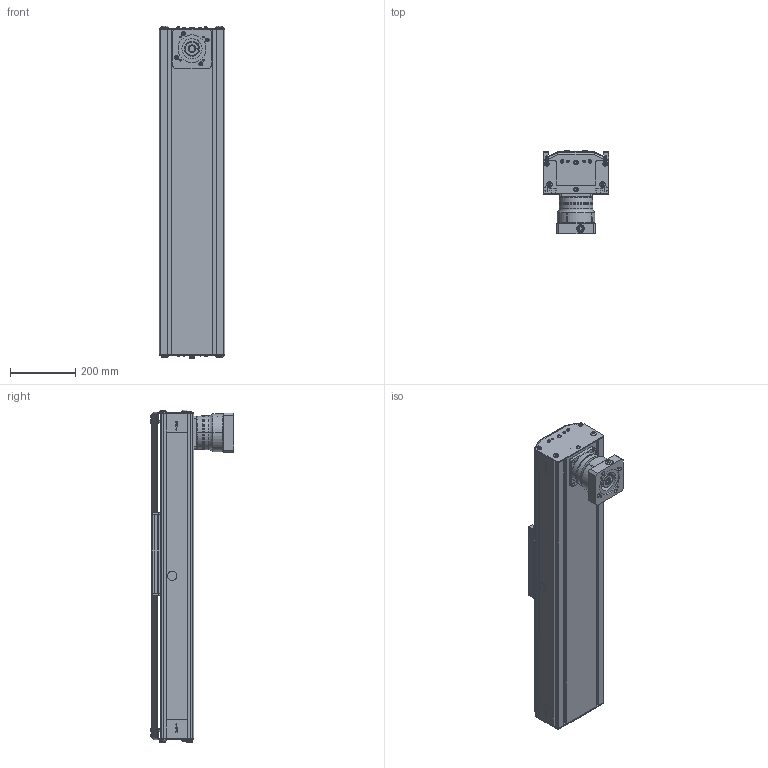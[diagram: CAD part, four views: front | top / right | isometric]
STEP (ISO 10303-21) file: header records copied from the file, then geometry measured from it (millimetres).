
FILE_DESCRIPTION (( 'STEP AP214' ), '1' );
FILE_NAME ('DSZPVI-200.STEP', '2016-01-15T08:08:26', ( 'admin' ), ( '' ), 'SwSTEP 2.0', 'SolidWorks 2015', '' );
FILE_SCHEMA (( 'AUTOMOTIVE_DESIGN' ));
Length unit declared in the file: millimetre
Products named in the file (11): Kopie von Abdeckstopfen Ø11^Führung DSZPVI 200_Positioniersystem DSZPVI 200; Lagerstückplatte DS 200 P - Spannseite - ED; Kopie von Lagerstückplatte DS 200 P - ED^Führung DSZPVI 200_Positioniersystem DSZPVI 200; Kopie von Planetengetriebe SP  100S-MF1-4-0E1 - 1FK7040-5AK71^F黨rung DSZPVI 200_Positioniersystem DSZPVI 200; Kopie von Führungsprofil DSZPVI 200 - Blechlagerstück^Führung DSZPVI 200_Positioniersystem DSZPVI 200_364 = Grundl„nge; DSZPVI-200; Führungsschlitten DS 200P - 4 Wagen^Positioniersystem DSZPVI 200; Zylinderschraube ISO 1207 - M10 x 16 --- 25C8.8_Zylinderschraube ISO 1207 - M4 x 25 --- 25C8.8; Kopie von Abstreifkappe D 200 P - 8mm^Führungsschlitten DS 200P - 4 Wagen_Positioniersystem DSZPVI 200; Kopie von Führungsschlitten DS 200P - 4 Wagen^Führungsschlitten DS 200P - 4 Wagen_Positioniersystem DSZPVI 200; Führung DSZPVI 200^Positioniersystem DSZPVI 200_Grundl„nge
Assembly tree (15 placements, depth 3):
  DSZPVI-200
    Führung DSZPVI 200^Positioniersystem DSZPVI 200_Grundl„nge
      Kopie von Führungsprofil DSZPVI 200 - Blechlagerstück^Führung DSZPVI 200_Positioniersystem DSZPVI 200_364 = Grundl„nge
      Kopie von Planetengetriebe SP  100S-MF1-4-0E1 - 1FK7040-5AK71^F黨rung DSZPVI 200_Positioniersystem DSZPVI 200
      Kopie von Lagerstückplatte DS 200 P - ED^Führung DSZPVI 200_Positioniersystem DSZPVI 200
      Lagerstückplatte DS 200 P - Spannseite - ED
      Kopie von Abdeckstopfen Ø11^Führung DSZPVI 200_Positioniersystem DSZPVI 200  x2
    Führungsschlitten DS 200P - 4 Wagen^Positioniersystem DSZPVI 200
      Kopie von Führungsschlitten DS 200P - 4 Wagen^Führungsschlitten DS 200P - 4 Wagen_Positioniersystem DSZPVI 200
      Kopie von Abstreifkappe D 200 P - 8mm^Führungsschlitten DS 200P - 4 Wagen_Positioniersystem DSZPVI 200  x2
      Zylinderschraube ISO 1207 - M10 x 16 --- 25C8.8_Zylinderschraube ISO 1207 - M4 x 25 --- 25C8.8  x4
Bounding box: 200 x 254.4 x 1013.9 mm (x, y, z)
Volume: 13280524.1 mm3; surface area: 1887345.9 mm2
Topology: 17 solids, 73 shells, 2101 faces, 5247 edges, 3274 vertices
Faces by surface type: plane 932, cylinder 597, cone 280, torus 184, bspline 62, sphere 46
Entity records: 82536 total; most frequent: CARTESIAN_POINT 15884, DIRECTION 10199, ORIENTED_EDGE 9438, EDGE_CURVE 4856, AXIS2_PLACEMENT_3D 3712, VERTEX_POINT 3076, LINE 2775, VECTOR 2775
